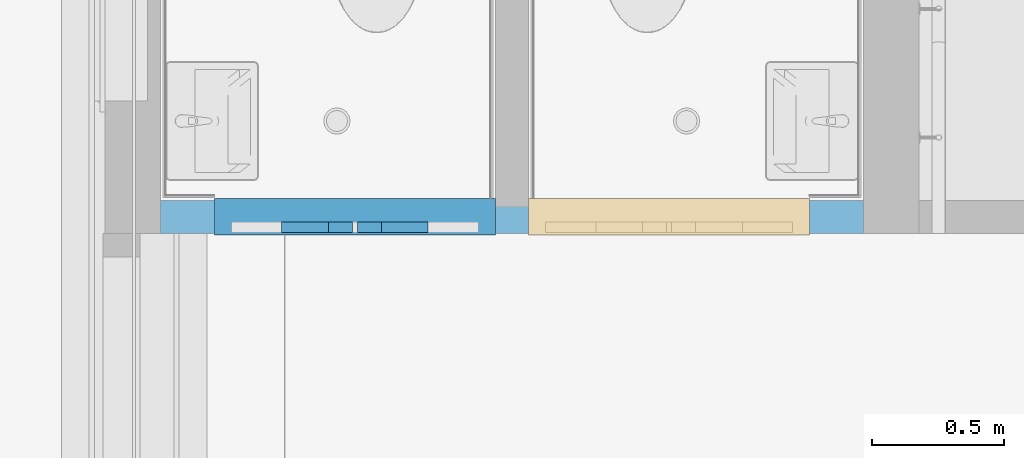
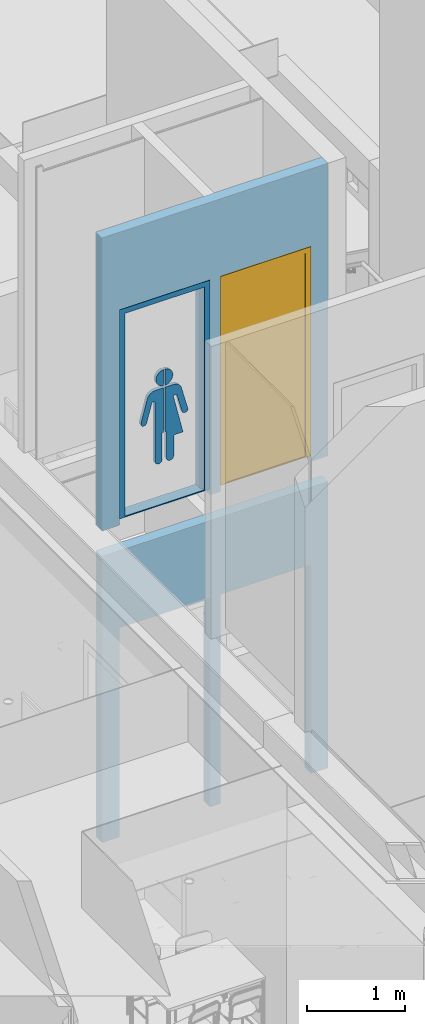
# One storey, part 58 of 347: 2 building element parts, 1 door, 4 openings, 1 element without a shape of its own, plus 1 element that does not belong to this part.
"""IFC2X3 building model written with IfcOpenShell, lengths in millimetres."""

from ifc_helpers import new_model, entity, si_unit, converted_unit, derived_unit, money_unit, direction, frame, origin_with_axes, place, context, subcontext, project, spatial, faceted_brep, material, type_object, element, fill, aggregate, save


model = new_model("IFC2X3")

# Units and contexts
model_context = context("Model", 3, precision=0.01, world=origin_with_axes(), true_north=direction((0.0, 1.0)))
plan_context = context("Plan", 3, precision=0.01, world=origin_with_axes(), true_north=direction((0.0, 1.0)))
body_context = subcontext(model_context, "Body", "Model", "MODEL_VIEW")
ifc_project = project(units=[si_unit("LENGTHUNIT", "METRE", prefix="MILLI"), si_unit("AREAUNIT", "SQUARE_METRE"), si_unit("VOLUMEUNIT", "CUBIC_METRE"), converted_unit("PLANEANGLEUNIT", "DEGREE", entity("IfcPlaneAngleMeasure", 0.0174532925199), si_unit("PLANEANGLEUNIT", "RADIAN"), dimensions=[0, 0, 0, 0, 0, 0, 0]), money_unit("EUR"), converted_unit("TIMEUNIT", "Year", entity("IfcTimeMeasure", 31556926.0), si_unit("TIMEUNIT", "SECOND"), dimensions=[0, 0, 1, 0, 0, 0, 0]), si_unit("MASSUNIT", "GRAM", prefix="KILO"), si_unit("THERMODYNAMICTEMPERATUREUNIT", "DEGREE_CELSIUS"), si_unit("LUMINOUSINTENSITYUNIT", "LUMEN"), si_unit("ENERGYUNIT", "JOULE", prefix="MEGA"), derived_unit("THERMALCONDUCTANCEUNIT", [(si_unit("POWERUNIT", "WATT"), 1), (si_unit("LENGTHUNIT", "METRE"), -1), (si_unit("THERMODYNAMICTEMPERATUREUNIT", "KELVIN"), -1)]), derived_unit("SPECIFICHEATCAPACITYUNIT", [(si_unit("ENERGYUNIT", "JOULE"), 1), (si_unit("MASSUNIT", "GRAM", prefix="KILO"), -1), (si_unit("THERMODYNAMICTEMPERATUREUNIT", "KELVIN"), -1)]), derived_unit("MASSDENSITYUNIT", [(si_unit("MASSUNIT", "GRAM", prefix="KILO"), 1), (si_unit("VOLUMEUNIT", "CUBIC_METRE"), -1)])], contexts=[model_context, plan_context])

# Site, building, storey
site_placement = place(None, origin_with_axes())
site = spatial("IfcSite", under=ifc_project, at=site_placement, Name="Site", CompositionType="ELEMENT")
building_placement = place(site_placement, origin_with_axes())
building = spatial("IfcBuilding", under=site, at=building_placement, Name="Naam gebouw", CompositionType="ELEMENT")
storey_placement = place(building_placement, origin_with_axes())
storey = spatial("IfcBuildingStorey", under=building, at=storey_placement, Name="begane grond", CompositionType="ELEMENT", Elevation=0.0)

# Wall, openings, doors, building element parts
ifc_material_1 = material(Name="ALG - LICHTE SCHEIDINGSWAND")
wall_type = type_object("IfcWallType", Name="ALG LSW 125 125", PredefinedType="NOTDEFINED")
wall_placement = place(storey_placement, frame((35705.0, 30074.9999277, 0.0), z_axis=(0.0, 0.0, 1.0), x_axis=(1.0, 0.0, 0.0)))
wall = element("IfcWall", 1, at=wall_placement, inside=storey, type_object=wall_type, material=ifc_material_1, Name="22_GF 125 ECO DGS/2.75.2A", context=body_context, shape_type="Brep", body=[
    faceted_brep([(1392.5, 125.0, 2600.0), (1392.5, 125.0, 0.0), (1267.5, 125.0, 0.0), (1267.5, 125.0, 2600.0), (203.5, 125.0, 2600.0), (203.5, 125.0, 0.0), (0.0, 125.0, 0.0), (0.0, 125.0, 3560.0), (2660.0, 125.0, 3560.0), (2660.0, 125.0, 0.0), (2456.5, 125.0, 0.0), (2456.5, 125.0, 2600.0), (1392.5, 0.0, 2600.0), (1392.5, 0.0, 0.0), (1267.5, 0.0, 0.0), (1267.5, 0.0, 2600.0), (203.5, 0.0, 2600.0), (203.5, 0.0, 0.0), (0.0, 0.0, 0.0), (0.0, 0.0, 3560.0), (2660.0, 0.0, 3560.0), (2660.0, 0.0, 0.0), (2456.5, 0.0, 0.0), (2456.5, 0.0, 2600.0)], [[[0, 1, 2, 3, 4, 5, 6, 7, 8, 9, 10, 11]], [[1, 0, 12, 13]], [[1, 13, 14, 2]], [[2, 14, 15, 3]], [[3, 15, 16, 4]], [[4, 16, 17, 5]], [[17, 18, 6, 5]], [[7, 6, 18, 19]], [[8, 7, 19, 20]], [[20, 21, 9, 8]], [[22, 10, 9, 21]], [[11, 10, 22, 23]], [[0, 11, 23, 12]], [[23, 22, 21, 20, 19, 18, 17, 16, 15, 14, 13, 12]]]),
    faceted_brep([(203.5, 125.0, 6560.0), (203.5, 125.0, 3960.0), (203.5, 125.0, 3880.0), (0.0, 125.0, 3880.0), (0.0, 125.0, 7520.0), (2660.0, 125.0, 7520.0), (2660.0, 125.0, 3880.0), (2456.5, 125.0, 3880.0), (2456.5, 125.0, 3960.0), (2456.5, 125.0, 6560.0), (1392.5, 125.0, 6560.0), (1392.5, 125.0, 3960.0), (1392.5, 125.0, 3880.0), (1267.5, 125.0, 3880.0), (1267.5, 125.0, 3960.0), (1267.5, 125.0, 6560.0), (203.5, 0.0, 6560.0), (203.5, 0.0, 3960.0), (203.5, 0.0, 3880.0), (0.0, 0.0, 3880.0), (0.0, 0.0, 7520.0), (2660.0, 0.0, 7520.0), (2660.0, 0.0, 3880.0), (2456.5, 0.0, 3880.0), (2456.5, 0.0, 3960.0), (2456.5, 0.0, 6560.0), (1392.5, 0.0, 6560.0), (1392.5, 0.0, 3960.0), (1392.5, 0.0, 3880.0), (1267.5, 0.0, 3880.0), (1267.5, 0.0, 3960.0), (1267.5, 0.0, 6560.0)], [[[0, 1, 2, 3, 4, 5, 6, 7, 8, 9, 10, 11, 12, 13, 14, 15]], [[1, 0, 16, 17]], [[1, 17, 18, 2]], [[18, 19, 3, 2]], [[19, 20, 4, 3]], [[4, 20, 21, 5]], [[6, 5, 21, 22]], [[7, 6, 22, 23]], [[8, 7, 23, 24]], [[8, 24, 25, 9]], [[9, 25, 26, 10]], [[10, 26, 27, 11]], [[27, 28, 12, 11]], [[28, 29, 13, 12]], [[30, 14, 13, 29]], [[15, 14, 30, 31]], [[0, 15, 31, 16]], [[31, 30, 29, 28, 27, 26, 25, 24, 23, 22, 21, 20, 19, 18, 17, 16]]]),
])
opening_1_placement = place(wall_placement, frame((735.5, 0.0, 0.0), z_axis=(0.0, 0.0, 1.0), x_axis=(1.0, 0.0, 0.0)))
element("IfcOpeningElement", 2, at=opening_1_placement, cuts=wall, Name="32_02.05", context=body_context, shape_type="Brep", body=[
    faceted_brep([(-532.0, 125.0, 2600.0), (-532.0, 125.0, 0.0), (-532.0, -257.0, 0.0), (-532.0, -257.0, 2600.0), (532.0, 125.0, 2600.0), (532.0, 125.0, 0.0), (532.0, -257.0, 0.0), (532.0, -257.0, 2600.0)], [[[0, 1, 2, 3]], [[0, 4, 5, 1]], [[1, 5, 6, 2]], [[3, 2, 6, 7]], [[4, 0, 3, 7]], [[5, 4, 7, 6]]]),
])
opening_2_placement = place(wall_placement, frame((1924.5, 0.0, 0.0), z_axis=(0.0, 0.0, 1.0), x_axis=(1.0, 0.0, 0.0)))
element("IfcOpeningElement", 3, at=opening_2_placement, cuts=wall, Name="32_02.05", context=body_context, shape_type="Brep", body=[
    faceted_brep([(-532.0, 125.0, 2600.0), (-532.0, 125.0, 0.0), (-532.0, -257.0, 0.0), (-532.0, -257.0, 2600.0), (532.0, 125.0, 2600.0), (532.0, 125.0, 0.0), (532.0, -257.0, 0.0), (532.0, -257.0, 2600.0)], [[[0, 1, 2, 3]], [[0, 4, 5, 1]], [[1, 5, 6, 2]], [[3, 2, 6, 7]], [[4, 0, 3, 7]], [[5, 4, 7, 6]]]),
])
opening_3_placement = place(wall_placement, frame((1924.5, 0.0, 3960.0), z_axis=(0.0, 0.0, 1.0), x_axis=(1.0, 0.0, 0.0)))
opening_3 = element("IfcOpeningElement", 4, at=opening_3_placement, cuts=wall, Name="32_02.05", context=body_context, shape_type="Brep", body=[
    faceted_brep([(-532.0, -125.0, 0.0), (-532.0, -125.0, 2600.0), (-532.0, 257.0, 2600.0), (-532.0, 257.0, 0.0), (532.0, -125.0, 0.0), (532.0, -125.0, 2600.0), (532.0, 257.0, 2600.0), (532.0, 257.0, 0.0)], [[[0, 1, 2, 3]], [[0, 4, 5, 1]], [[1, 5, 6, 2]], [[3, 2, 6, 7]], [[4, 0, 3, 7]], [[5, 4, 7, 6]]]),
])
opening_4_placement = place(wall_placement, frame((735.5, 0.0, 3960.0), z_axis=(0.0, 0.0, 1.0), x_axis=(1.0, 0.0, 0.0)))
opening_4 = element("IfcOpeningElement", 5, at=opening_4_placement, cuts=wall, Name="32_02.05", context=body_context, shape_type="Brep", body=[
    faceted_brep([(-532.0, -125.0, 0.0), (-532.0, -125.0, 2600.0), (-532.0, 257.0, 2600.0), (-532.0, 257.0, 0.0), (532.0, -125.0, 0.0), (532.0, -125.0, 2600.0), (532.0, 257.0, 2600.0), (532.0, 257.0, 0.0)], [[[0, 1, 2, 3]], [[0, 4, 5, 1]], [[1, 5, 6, 2]], [[3, 2, 6, 7]], [[4, 0, 3, 7]], [[5, 4, 7, 6]]]),
])
door_style = type_object("IfcDoorStyle", Name="D1 25", ConstructionType="NOTDEFINED", OperationType="SINGLE_SWING_RIGHT", ParameterTakesPrecedence=False, Sizeable=False)
door_1_placement = place(opening_3_placement, frame((532.0, 0.0, 0.0), z_axis=(0.0, 0.0, 1.0), x_axis=(-1.0, 0.0, 0.0)))
door_1 = element("IfcDoor", 6, at=door_1_placement, inside=storey, type_object=door_style, Name="32_02.05", ObjectType="DOOR", OverallHeight=2600.0, OverallWidth=1064.0, context=body_context, shape_type="Brep", body=[
    faceted_brep([(65.0, -33.0, 10.0), (90.0, -33.0, 10.0), (90.0, -132.0, 10.0), (974.0, -132.0, 10.0), (974.0, -33.0, 10.0), (999.0, -33.0, 10.0), (999.0, 7.0, 10.0), (65.0, 7.0, 10.0), (65.0, -33.0, 0.0), (90.0, -33.0, 0.0), (90.0, -132.0, 0.0), (974.0, -132.0, 0.0), (974.0, -33.0, 0.0), (999.0, -33.0, 0.0), (999.0, 7.0, 0.0), (65.0, 7.0, 0.0)], [[[0, 1, 2, 3, 4, 5, 6, 7]], [[1, 0, 8, 9]], [[10, 2, 1, 9]], [[2, 10, 11, 3]], [[3, 11, 12, 4]], [[5, 4, 12, 13]], [[13, 14, 6, 5]], [[15, 7, 6, 14]], [[8, 0, 7, 15]], [[9, 8, 15, 14, 13, 12, 11, 10]]]),
    faceted_brep([(90.0, -43.0, 0.0), (90.0, -43.0, 2510.0), (90.0, -132.0, 2510.0), (90.0, -132.0, 0.0), (65.0, -43.0, 2510.0), (65.0, -43.0, 0.0), (65.0, 7.0, 2510.0), (0.0, 7.0, 2510.0), (0.0, -132.0, 2510.0), (0.0, -132.0, 0.0), (0.0, 7.0, 0.0), (65.0, 7.0, 0.0)], [[[0, 1, 2, 3]], [[4, 1, 0, 5]], [[4, 6, 7, 8, 2, 1]], [[3, 2, 8, 9]], [[5, 0, 3, 9, 10, 11]], [[6, 4, 5, 11]], [[6, 11, 10, 7]], [[10, 9, 8, 7]]]),
    faceted_brep([(999.0, -43.0, 2510.0), (974.0, -43.0, 2510.0), (974.0, -132.0, 2510.0), (1064.0, -132.0, 2510.0), (1064.0, 7.0, 2510.0), (999.0, 7.0, 2510.0), (999.0, -43.0, 0.0), (974.0, -43.0, 0.0), (974.0, -132.0, 0.0), (1064.0, -132.0, 0.0), (1064.0, 7.0, 0.0), (999.0, 7.0, 0.0)], [[[0, 1, 2, 3, 4, 5]], [[1, 0, 6, 7]], [[1, 7, 8, 2]], [[3, 2, 8, 9]], [[4, 3, 9, 10]], [[11, 5, 4, 10]], [[0, 5, 11, 6]], [[6, 11, 10, 9, 8, 7]]]),
    faceted_brep([(65.0, 7.0, 2535.0), (65.0, 7.0, 2510.0), (0.0, 7.0, 2510.0), (0.0, 7.0, 2600.0), (1064.0, 7.0, 2600.0), (1064.0, 7.0, 2510.0), (999.0, 7.0, 2510.0), (999.0, 7.0, 2535.0), (65.0, -43.0, 2535.0), (65.0, -43.0, 2510.0), (90.0, -43.0, 2510.0), (90.0, -132.0, 2510.0), (0.0, -132.0, 2510.0), (0.0, -132.0, 2600.0), (1064.0, -132.0, 2600.0), (1064.0, -132.0, 2510.0), (999.0, -43.0, 2510.0), (974.0, -132.0, 2510.0), (974.0, -43.0, 2510.0), (999.0, -43.0, 2535.0)], [[[0, 1, 2, 3, 4, 5, 6, 7]], [[1, 0, 8, 9]], [[9, 10, 11, 12, 2, 1]], [[2, 12, 13, 3]], [[3, 13, 14, 4]], [[4, 14, 15, 5]], [[16, 6, 5, 15, 17, 18]], [[7, 6, 16, 19]], [[0, 7, 19, 8]], [[16, 18, 10, 9, 8, 19]], [[10, 18, 17, 11]], [[17, 15, 14, 13, 12, 11]]]),
    faceted_brep([(999.0, -3.0, 10.0), (999.0, -43.0, 10.0), (65.0, -43.0, 10.0), (65.0, -3.0, 10.0), (999.0, -3.0, 2535.0), (999.0, -43.0, 2535.0), (65.0, -43.0, 2535.0), (65.0, -3.0, 2535.0)], [[[0, 1, 2, 3]], [[4, 5, 1, 0]], [[1, 5, 6, 2]], [[3, 2, 6, 7]], [[0, 3, 7, 4]], [[7, 6, 5, 4]]]),
])
fill(opening_3, door_1)
door_2_placement = place(opening_4_placement, frame((532.0, 0.0, 0.0), z_axis=(0.0, 0.0, 1.0), x_axis=(-1.0, 0.0, 0.0)))
door_2 = element("IfcDoor", 7, at=door_2_placement, inside=storey, type_object=door_style, Name="32_02.05", ObjectType="DOOR", OverallHeight=2600.0, OverallWidth=1064.0)
fill(opening_4, door_2)
building_element_part_1_placement = place(door_2_placement, origin_with_axes())
building_element_part_1 = element("IfcBuildingElementPart", 8, at=building_element_part_1_placement, context=body_context, shape_type="Brep", body=[
    faceted_brep([(65.0, -33.0, 10.0), (90.0, -33.0, 10.0), (90.0, -132.0, 10.0), (974.0, -132.0, 10.0), (974.0, -33.0, 10.0), (999.0, -33.0, 10.0), (999.0, 7.0, 10.0), (65.0, 7.0, 10.0), (65.0, -33.0, 0.0), (90.0, -33.0, 0.0), (90.0, -132.0, 0.0), (974.0, -132.0, 0.0), (974.0, -33.0, 0.0), (999.0, -33.0, 0.0), (999.0, 7.0, 0.0), (65.0, 7.0, 0.0)], [[[0, 1, 2, 3, 4, 5, 6, 7]], [[1, 0, 8, 9]], [[10, 2, 1, 9]], [[2, 10, 11, 3]], [[3, 11, 12, 4]], [[5, 4, 12, 13]], [[13, 14, 6, 5]], [[15, 7, 6, 14]], [[8, 0, 7, 15]], [[9, 8, 15, 14, 13, 12, 11, 10]]]),
    faceted_brep([(90.0, -43.0, 0.0), (90.0, -43.0, 2510.0), (90.0, -132.0, 2510.0), (90.0, -132.0, 0.0), (65.0, -43.0, 2510.0), (65.0, -43.0, 0.0), (65.0, 7.0, 2510.0), (0.0, 7.0, 2510.0), (0.0, -132.0, 2510.0), (0.0, -132.0, 0.0), (0.0, 7.0, 0.0), (65.0, 7.0, 0.0)], [[[0, 1, 2, 3]], [[4, 1, 0, 5]], [[4, 6, 7, 8, 2, 1]], [[3, 2, 8, 9]], [[5, 0, 3, 9, 10, 11]], [[6, 4, 5, 11]], [[6, 11, 10, 7]], [[10, 9, 8, 7]]]),
    faceted_brep([(999.0, -43.0, 2510.0), (974.0, -43.0, 2510.0), (974.0, -132.0, 2510.0), (1064.0, -132.0, 2510.0), (1064.0, 7.0, 2510.0), (999.0, 7.0, 2510.0), (999.0, -43.0, 0.0), (974.0, -43.0, 0.0), (974.0, -132.0, 0.0), (1064.0, -132.0, 0.0), (1064.0, 7.0, 0.0), (999.0, 7.0, 0.0)], [[[0, 1, 2, 3, 4, 5]], [[1, 0, 6, 7]], [[1, 7, 8, 2]], [[3, 2, 8, 9]], [[4, 3, 9, 10]], [[11, 5, 4, 10]], [[0, 5, 11, 6]], [[6, 11, 10, 9, 8, 7]]]),
    faceted_brep([(65.0, 7.0, 2535.0), (65.0, 7.0, 2510.0), (0.0, 7.0, 2510.0), (0.0, 7.0, 2600.0), (1064.0, 7.0, 2600.0), (1064.0, 7.0, 2510.0), (999.0, 7.0, 2510.0), (999.0, 7.0, 2535.0), (65.0, -43.0, 2535.0), (65.0, -43.0, 2510.0), (90.0, -43.0, 2510.0), (90.0, -132.0, 2510.0), (0.0, -132.0, 2510.0), (0.0, -132.0, 2600.0), (1064.0, -132.0, 2600.0), (1064.0, -132.0, 2510.0), (999.0, -43.0, 2510.0), (974.0, -132.0, 2510.0), (974.0, -43.0, 2510.0), (999.0, -43.0, 2535.0)], [[[0, 1, 2, 3, 4, 5, 6, 7]], [[1, 0, 8, 9]], [[9, 10, 11, 12, 2, 1]], [[2, 12, 13, 3]], [[3, 13, 14, 4]], [[4, 14, 15, 5]], [[16, 6, 5, 15, 17, 18]], [[7, 6, 16, 19]], [[0, 7, 19, 8]], [[16, 18, 10, 9, 8, 19]], [[10, 18, 17, 11]], [[17, 15, 14, 13, 12, 11]]]),
])
ifc_material_2 = material(Name="Glas sticker")
building_element_part_2_placement = place(door_2_placement, origin_with_axes())
building_element_part_2 = element("IfcBuildingElementPart", 9, at=building_element_part_2_placement, material=ifc_material_2, Name="Glas sticker", context=body_context, shape_type="Brep", body=[
    faceted_brep([(733.58891637, -3.0, 1368.954906), (733.58891637, -43.0, 1368.954906), (808.62552127, -43.0, 1088.44895872), (808.62552127, -3.0, 1088.44895872), (727.949154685, -3.0, 1385.59511164), (727.949154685, -43.0, 1385.59511164), (719.162658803, -43.0, 1400.83915132), (707.866957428, -43.0, 1414.32329606), (694.405264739, -43.0, 1425.63783693), (679.186607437, -43.0, 1434.43898735), (662.673396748, -43.0, 1440.4593288), (645.367378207, -43.0, 1443.51593625), (636.580882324, -43.0, 1443.51593625), (542.043020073, -43.0, 1443.51593625), (542.043020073, -43.0, 890.229090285), (557.10752188, -43.0, 890.229090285), (557.10752188, -43.0, 563.286854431), (556.693281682, -43.0, 557.54197595), (557.521762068, -43.0, 550.06099695), (559.634551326, -43.0, 542.8377749), (562.967453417, -43.0, 536.091783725), (567.419199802, -43.0, 530.027996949), (572.854526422, -43.0, 524.830659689), (579.108283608, -43.0, 520.657690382), (585.990454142, -43.0, 517.635882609), (593.291926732, -43.0, 515.857052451), (600.790849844, -43.0, 515.375248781), (608.259372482, -43.0, 516.205110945), (615.470567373, -43.0, 518.321424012), (622.205326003, -43.0, 521.659884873), (628.25901614, -43.0, 526.119056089), (633.447699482, -43.0, 531.563447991), (637.613720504, -43.0, 537.827635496), (640.630496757, -43.0, 544.721284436), (642.406365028, -43.0, 552.034934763), (642.887366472, -43.0, 559.546364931), (642.473126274, -43.0, 563.286854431), (642.473126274, -43.0, 1292.61952191), (642.695072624, -43.0, 1294.3081838), (643.717711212, -43.0, 1297.5569887), (645.288023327, -43.0, 1300.57856146), (647.358295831, -43.0, 1303.2810931), (649.865624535, -43.0, 1305.58246859), (652.733825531, -43.0, 1307.41276178), (655.875749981, -43.0, 1308.71636013), (659.195932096, -43.0, 1309.45365449), (662.593489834, -43.0, 1309.60224253), (665.965190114, -43.0, 1309.15760948), (669.208585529, -43.0, 1308.13326528), (672.225127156, -43.0, 1306.56033414), (674.923158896, -43.0, 1304.48660874), (677.220702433, -43.0, 1301.97509819), (679.047948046, -43.0, 1299.10211348), (680.349375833, -43.0, 1295.95494878), (681.011836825, -43.0, 1292.61952191), (739.923578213, -43.0, 1073.19870026), (740.722214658, -43.0, 1070.21469297), (743.322258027, -43.0, 1064.63143877), (746.850708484, -43.0, 1059.58525256), (751.200355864, -43.0, 1055.22946015), (756.239038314, -43.0, 1051.6964101), (761.813658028, -43.0, 1049.09345233), (767.754833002, -43.0, 1047.49967641), (773.882043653, -43.0, 1046.96350842), (780.009117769, -43.0, 1047.50123953), (785.949887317, -43.0, 1049.09653107), (791.523845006, -43.0, 1051.70091091), (796.561628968, -43.0, 1055.23524628), (800.910168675, -43.0, 1059.59214821), (804.437335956, -43.0, 1064.63923441), (807.035959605, -43.0, 1070.22315174), (808.627081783, -43.0, 1076.17423568), (809.162357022, -43.0, 1082.31166558), (809.162357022, -3.0, 1082.31166558), (808.627081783, -3.0, 1076.17423568), (807.035959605, -3.0, 1070.22315174), (804.437335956, -3.0, 1064.63923441), (800.910168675, -3.0, 1059.59214821), (796.561628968, -3.0, 1055.23524628), (791.523845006, -3.0, 1051.70091091), (785.949887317, -3.0, 1049.09653107), (780.009117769, -3.0, 1047.50123953), (773.882043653, -3.0, 1046.96350842), (767.754833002, -3.0, 1047.49967641), (761.813658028, -3.0, 1049.09345233), (756.239038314, -3.0, 1051.6964101), (751.200355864, -3.0, 1055.22946015), (746.850708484, -3.0, 1059.58525256), (743.322258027, -3.0, 1064.63143877), (740.722214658, -3.0, 1070.21469297), (739.923578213, -3.0, 1073.19870026), (681.011836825, -3.0, 1292.61952191), (680.349375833, -3.0, 1295.95494878), (679.047948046, -3.0, 1299.10211348), (677.220702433, -3.0, 1301.97509819), (674.923158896, -3.0, 1304.48660874), (672.225127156, -3.0, 1306.56033414), (669.208585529, -3.0, 1308.13326528), (665.965190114, -3.0, 1309.15760948), (662.593489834, -3.0, 1309.60224253), (659.195932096, -3.0, 1309.45365449), (655.875749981, -3.0, 1308.71636013), (652.733825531, -3.0, 1307.41276178), (649.865624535, -3.0, 1305.58246859), (647.358295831, -3.0, 1303.2810931), (645.288023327, -3.0, 1300.57856146), (643.717711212, -3.0, 1297.5569887), (642.695072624, -3.0, 1294.3081838), (642.473126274, -3.0, 1292.61952191), (642.473126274, -3.0, 563.286854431), (642.887366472, -3.0, 559.546364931), (642.406365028, -3.0, 552.034934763), (640.630496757, -3.0, 544.721284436), (637.613720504, -3.0, 537.827635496), (633.447699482, -3.0, 531.563447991), (628.25901614, -3.0, 526.119056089), (622.205326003, -3.0, 521.659884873), (615.470567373, -3.0, 518.321424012), (608.259372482, -3.0, 516.205110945), (600.790849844, -3.0, 515.375248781), (593.291926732, -3.0, 515.857052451), (585.990454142, -3.0, 517.635882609), (579.108283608, -3.0, 520.657690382), (572.854526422, -3.0, 524.830659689), (567.419199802, -3.0, 530.027996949), (562.967453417, -3.0, 536.091783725), (559.634551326, -3.0, 542.8377749), (557.521762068, -3.0, 550.06099695), (556.693281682, -3.0, 557.54197595), (557.10752188, -3.0, 563.286854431), (557.10752188, -3.0, 890.229090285), (542.043020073, -3.0, 890.229090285), (542.043020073, -3.0, 1443.51593625), (636.580882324, -3.0, 1443.51593625), (645.367378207, -3.0, 1443.51593625), (662.673396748, -3.0, 1440.4593288), (679.186607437, -3.0, 1434.43898735), (694.405264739, -3.0, 1425.63783693), (707.866957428, -3.0, 1414.32329606), (719.162658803, -3.0, 1400.83915132)], [[[0, 1, 2, 3]], [[4, 5, 1, 0]], [[1, 5, 6, 7, 8, 9, 10, 11, 12, 13, 14, 15, 16, 17, 18, 19, 20, 21, 22, 23, 24, 25, 26, 27, 28, 29, 30, 31, 32, 33, 34, 35, 36, 37, 38, 39, 40, 41, 42, 43, 44, 45, 46, 47, 48, 49, 50, 51, 52, 53, 54, 55, 56, 57, 58, 59, 60, 61, 62, 63, 64, 65, 66, 67, 68, 69, 70, 71, 72, 2]], [[3, 2, 72, 73]], [[0, 3, 73, 74, 75, 76, 77, 78, 79, 80, 81, 82, 83, 84, 85, 86, 87, 88, 89, 90, 91, 92, 93, 94, 95, 96, 97, 98, 99, 100, 101, 102, 103, 104, 105, 106, 107, 108, 109, 110, 111, 112, 113, 114, 115, 116, 117, 118, 119, 120, 121, 122, 123, 124, 125, 126, 127, 128, 129, 130, 131, 132, 133, 134, 135, 136, 137, 138, 139, 4]], [[139, 6, 5, 4]], [[138, 7, 6, 139]], [[137, 8, 7, 138]], [[136, 9, 8, 137]], [[135, 10, 9, 136]], [[134, 11, 10, 135]], [[133, 12, 11, 134]], [[132, 13, 12, 133]], [[131, 14, 13, 132]], [[130, 15, 14, 131]], [[129, 16, 15, 130]], [[128, 17, 16, 129]], [[127, 18, 17, 128]], [[126, 19, 18, 127]], [[125, 20, 19, 126]], [[124, 21, 20, 125]], [[123, 22, 21, 124]], [[122, 23, 22, 123]], [[121, 24, 23, 122]], [[120, 25, 24, 121]], [[119, 26, 25, 120]], [[118, 27, 26, 119]], [[117, 28, 27, 118]], [[116, 29, 28, 117]], [[115, 30, 29, 116]], [[114, 31, 30, 115]], [[113, 32, 31, 114]], [[112, 33, 32, 113]], [[111, 34, 33, 112]], [[110, 35, 34, 111]], [[109, 36, 35, 110]], [[108, 37, 36, 109]], [[107, 38, 37, 108]], [[106, 39, 38, 107]], [[105, 40, 39, 106]], [[104, 41, 40, 105]], [[103, 42, 41, 104]], [[102, 43, 42, 103]], [[101, 44, 43, 102]], [[100, 45, 44, 101]], [[99, 46, 45, 100]], [[98, 47, 46, 99]], [[97, 48, 47, 98]], [[96, 49, 48, 97]], [[95, 50, 49, 96]], [[94, 51, 50, 95]], [[93, 52, 51, 94]], [[92, 53, 52, 93]], [[91, 54, 53, 92]], [[90, 55, 54, 91]], [[89, 56, 55, 90]], [[88, 57, 56, 89]], [[87, 58, 57, 88]], [[86, 59, 58, 87]], [[85, 60, 59, 86]], [[84, 61, 60, 85]], [[83, 62, 61, 84]], [[82, 63, 62, 83]], [[81, 64, 63, 82]], [[80, 65, 64, 81]], [[79, 66, 65, 80]], [[78, 67, 66, 79]], [[77, 68, 67, 78]], [[76, 69, 68, 77]], [[75, 70, 69, 76]], [[74, 71, 70, 75]], [[73, 72, 71, 74]]]),
    faceted_brep([(521.956979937, -3.0, 890.229090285), (521.956979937, -43.0, 890.229090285), (506.89247812, -43.0, 890.229090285), (506.89247812, -3.0, 890.229090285), (521.956979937, -3.0, 1443.51593625), (521.956979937, -43.0, 1443.51593625), (427.419117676, -43.0, 1443.51593625), (409.912998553, -43.0, 1442.36606156), (392.938791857, -43.0, 1437.81025123), (377.01225242, -43.0, 1430.37119778), (362.617300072, -43.0, 1420.27493311), (350.191318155, -43.0, 1407.82822709), (340.111863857, -43.0, 1393.40926659), (332.68519628, -43.0, 1377.45616444), (330.41108363, -43.0, 1368.954906), (256.168479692, -43.0, 1091.41563724), (255.37291883, -43.0, 1088.44009521), (254.837644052, -43.0, 1082.30266527), (255.374480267, -43.0, 1076.16537218), (256.967115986, -43.0, 1070.21469446), (259.567159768, -43.0, 1064.63144045), (263.095610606, -43.0, 1059.58525451), (267.445258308, -43.0, 1055.22946244), (272.483941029, -43.0, 1051.69641276), (278.058560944, -43.0, 1049.09345542), (283.999736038, -43.0, 1047.49967995), (290.126946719, -43.0, 1046.96351241), (296.254020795, -43.0, 1047.50124399), (302.194790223, -43.0, 1049.09653598), (307.768747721, -43.0, 1051.70091623), (312.806531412, -43.0, 1055.235252), (317.155070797, -43.0, 1059.59215425), (320.682237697, -43.0, 1064.63924071), (323.280860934, -43.0, 1070.22315824), (324.076421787, -43.0, 1073.19870027), (382.772157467, -43.0, 1292.61952191), (382.996445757, -43.0, 1294.42542469), (384.064346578, -43.0, 1297.90433437), (385.719124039, -43.0, 1301.14464328), (387.910498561, -43.0, 1304.04789628), (390.571886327, -43.0, 1306.52587948), (393.622422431, -43.0, 1308.50330061), (396.969417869, -43.0, 1309.92007677), (400.511175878, -43.0, 1310.73315989), (404.140081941, -43.0, 1310.91784487), (407.745873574, -43.0, 1310.46852015), (411.218990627, -43.0, 1309.39883823), (414.453904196, -43.0, 1307.74130085), (417.352323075, -43.0, 1305.54627145), (419.826180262, -43.0, 1302.8804449), (421.800308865, -43.0, 1299.82482097), (423.214725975, -43.0, 1296.47224326), (423.986544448, -43.0, 1292.61952191), (312.133961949, -43.0, 814.780876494), (421.526873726, -43.0, 814.780876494), (421.526873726, -43.0, 563.286854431), (421.112633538, -43.0, 557.54197595), (421.941113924, -43.0, 550.06099695), (424.053903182, -43.0, 542.8377749), (427.386805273, -43.0, 536.091783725), (431.838551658, -43.0, 530.027996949), (437.273878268, -43.0, 524.830659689), (443.527635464, -43.0, 520.657690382), (450.409805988, -43.0, 517.635882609), (457.711278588, -43.0, 515.857052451), (465.21020169, -43.0, 515.375248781), (472.678724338, -43.0, 516.205110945), (479.889919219, -43.0, 518.321424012), (486.624677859, -43.0, 521.659884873), (492.678367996, -43.0, 526.119056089), (497.867051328, -43.0, 531.563447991), (502.03307235, -43.0, 537.827635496), (505.049848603, -43.0, 544.721284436), (506.825716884, -43.0, 552.034934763), (507.306718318, -43.0, 559.546364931), (506.89247812, -43.0, 563.286854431), (506.89247812, -3.0, 563.286854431), (507.306718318, -3.0, 559.546364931), (506.825716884, -3.0, 552.034934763), (505.049848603, -3.0, 544.721284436), (502.03307235, -3.0, 537.827635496), (497.867051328, -3.0, 531.563447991), (492.678367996, -3.0, 526.119056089), (486.624677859, -3.0, 521.659884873), (479.889919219, -3.0, 518.321424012), (472.678724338, -3.0, 516.205110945), (465.21020169, -3.0, 515.375248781), (457.711278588, -3.0, 515.857052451), (450.409805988, -3.0, 517.635882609), (443.527635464, -3.0, 520.657690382), (437.273878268, -3.0, 524.830659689), (431.838551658, -3.0, 530.027996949), (427.386805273, -3.0, 536.091783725), (424.053903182, -3.0, 542.8377749), (421.941113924, -3.0, 550.06099695), (421.112633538, -3.0, 557.54197595), (421.526873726, -3.0, 563.286854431), (421.526873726, -3.0, 814.780876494), (312.133961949, -3.0, 814.780876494), (423.986544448, -3.0, 1292.61952191), (423.214725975, -3.0, 1296.47224326), (421.800308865, -3.0, 1299.82482097), (419.826180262, -3.0, 1302.8804449), (417.352323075, -3.0, 1305.54627145), (414.453904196, -3.0, 1307.74130085), (411.218990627, -3.0, 1309.39883823), (407.745873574, -3.0, 1310.46852015), (404.140081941, -3.0, 1310.91784487), (400.511175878, -3.0, 1310.73315989), (396.969417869, -3.0, 1309.92007677), (393.622422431, -3.0, 1308.50330061), (390.571886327, -3.0, 1306.52587948), (387.910498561, -3.0, 1304.04789628), (385.719124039, -3.0, 1301.14464328), (384.064346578, -3.0, 1297.90433437), (382.996445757, -3.0, 1294.42542469), (382.772157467, -3.0, 1292.61952191), (324.076421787, -3.0, 1073.19870027), (323.280860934, -3.0, 1070.22315824), (320.682237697, -3.0, 1064.63924071), (317.155070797, -3.0, 1059.59215425), (312.806531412, -3.0, 1055.235252), (307.768747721, -3.0, 1051.70091623), (302.194790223, -3.0, 1049.09653598), (296.254020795, -3.0, 1047.50124399), (290.126946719, -3.0, 1046.96351241), (283.999736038, -3.0, 1047.49967995), (278.058560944, -3.0, 1049.09345542), (272.483941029, -3.0, 1051.69641276), (267.445258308, -3.0, 1055.22946244), (263.095610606, -3.0, 1059.58525451), (259.567159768, -3.0, 1064.63144045), (256.967115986, -3.0, 1070.21469446), (255.374480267, -3.0, 1076.16537218), (254.837644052, -3.0, 1082.30266527), (255.37291883, -3.0, 1088.44009521), (256.168479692, -3.0, 1091.41563724), (330.41108363, -3.0, 1368.954906), (332.68519628, -3.0, 1377.45616444), (340.111863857, -3.0, 1393.40926659), (350.191318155, -3.0, 1407.82822709), (362.617300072, -3.0, 1420.27493311), (377.01225242, -3.0, 1430.37119778), (392.938791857, -3.0, 1437.81025123), (409.912998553, -3.0, 1442.36606156), (427.419117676, -3.0, 1443.51593625)], [[[0, 1, 2, 3]], [[4, 5, 1, 0]], [[1, 5, 6, 7, 8, 9, 10, 11, 12, 13, 14, 15, 16, 17, 18, 19, 20, 21, 22, 23, 24, 25, 26, 27, 28, 29, 30, 31, 32, 33, 34, 35, 36, 37, 38, 39, 40, 41, 42, 43, 44, 45, 46, 47, 48, 49, 50, 51, 52, 53, 54, 55, 56, 57, 58, 59, 60, 61, 62, 63, 64, 65, 66, 67, 68, 69, 70, 71, 72, 73, 74, 75, 2]], [[3, 2, 75, 76]], [[0, 3, 76, 77, 78, 79, 80, 81, 82, 83, 84, 85, 86, 87, 88, 89, 90, 91, 92, 93, 94, 95, 96, 97, 98, 99, 100, 101, 102, 103, 104, 105, 106, 107, 108, 109, 110, 111, 112, 113, 114, 115, 116, 117, 118, 119, 120, 121, 122, 123, 124, 125, 126, 127, 128, 129, 130, 131, 132, 133, 134, 135, 136, 137, 138, 139, 140, 141, 142, 143, 144, 145, 4]], [[145, 6, 5, 4]], [[144, 7, 6, 145]], [[143, 8, 7, 144]], [[142, 9, 8, 143]], [[141, 10, 9, 142]], [[140, 11, 10, 141]], [[139, 12, 11, 140]], [[138, 13, 12, 139]], [[137, 14, 13, 138]], [[136, 15, 14, 137]], [[135, 16, 15, 136]], [[134, 17, 16, 135]], [[133, 18, 17, 134]], [[132, 19, 18, 133]], [[131, 20, 19, 132]], [[130, 21, 20, 131]], [[129, 22, 21, 130]], [[128, 23, 22, 129]], [[127, 24, 23, 128]], [[126, 25, 24, 127]], [[125, 26, 25, 126]], [[124, 27, 26, 125]], [[123, 28, 27, 124]], [[122, 29, 28, 123]], [[121, 30, 29, 122]], [[120, 31, 30, 121]], [[119, 32, 31, 120]], [[118, 33, 32, 119]], [[117, 34, 33, 118]], [[116, 35, 34, 117]], [[115, 36, 35, 116]], [[114, 37, 36, 115]], [[113, 38, 37, 114]], [[112, 39, 38, 113]], [[111, 40, 39, 112]], [[110, 41, 40, 111]], [[109, 42, 41, 110]], [[108, 43, 42, 109]], [[107, 44, 43, 108]], [[106, 45, 44, 107]], [[105, 46, 45, 106]], [[104, 47, 46, 105]], [[103, 48, 47, 104]], [[102, 49, 48, 103]], [[101, 50, 49, 102]], [[100, 51, 50, 101]], [[99, 52, 51, 100]], [[98, 53, 52, 99]], [[97, 54, 53, 98]], [[96, 55, 54, 97]], [[95, 56, 55, 96]], [[94, 57, 56, 95]], [[93, 58, 57, 94]], [[92, 59, 58, 93]], [[91, 60, 59, 92]], [[90, 61, 60, 91]], [[89, 62, 61, 90]], [[88, 63, 62, 89]], [[87, 64, 63, 88]], [[86, 65, 64, 87]], [[85, 66, 65, 86]], [[84, 67, 66, 85]], [[83, 68, 67, 84]], [[82, 69, 68, 83]], [[81, 70, 69, 82]], [[80, 71, 70, 81]], [[79, 72, 71, 80]], [[78, 73, 72, 79]], [[77, 74, 73, 78]], [[76, 75, 74, 77]]]),
    faceted_brep([(521.956979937, -3.0, 1669.35630499), (521.956979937, -43.0, 1669.35630499), (521.956979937, -43.0, 1469.16959144), (521.956979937, -3.0, 1469.16959144), (505.907485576, -3.0, 1666.80395031), (505.907485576, -43.0, 1666.80395031), (489.394274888, -43.0, 1660.78360886), (474.175617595, -43.0, 1651.98245845), (460.713924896, -43.0, 1640.66791757), (449.418223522, -43.0, 1627.18377283), (440.631727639, -43.0, 1611.93973315), (434.621410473, -43.0, 1595.39898096), (431.569892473, -43.0, 1578.06409863), (431.569892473, -43.0, 1569.26294821), (432.500273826, -43.0, 1553.01203348), (436.829141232, -43.0, 1535.9521583), (444.049727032, -43.0, 1519.90441461), (453.942637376, -43.0, 1505.35640498), (466.207281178, -43.0, 1492.75016333), (480.471003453, -43.0, 1482.46872393), (496.300408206, -43.0, 1474.82448312), (513.214526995, -43.0, 1470.04970729), (513.214526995, -3.0, 1470.04970729), (496.300408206, -3.0, 1474.82448312), (480.471003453, -3.0, 1482.46872393), (466.207281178, -3.0, 1492.75016333), (453.942637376, -3.0, 1505.35640498), (444.049727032, -3.0, 1519.90441461), (436.829141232, -3.0, 1535.9521583), (432.500273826, -3.0, 1553.01203348), (431.569892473, -3.0, 1569.26294821), (431.569892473, -3.0, 1578.06409863), (434.621410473, -3.0, 1595.39898096), (440.631727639, -3.0, 1611.93973315), (449.418223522, -3.0, 1627.18377283), (460.713924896, -3.0, 1640.66791757), (474.175617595, -3.0, 1651.98245845), (489.394274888, -3.0, 1660.78360886)], [[[0, 1, 2, 3]], [[4, 5, 1, 0]], [[1, 5, 6, 7, 8, 9, 10, 11, 12, 13, 14, 15, 16, 17, 18, 19, 20, 21, 2]], [[3, 2, 21, 22]], [[0, 3, 22, 23, 24, 25, 26, 27, 28, 29, 30, 31, 32, 33, 34, 35, 36, 37, 4]], [[37, 6, 5, 4]], [[36, 7, 6, 37]], [[35, 8, 7, 36]], [[34, 9, 8, 35]], [[33, 10, 9, 34]], [[32, 11, 10, 33]], [[31, 12, 11, 32]], [[30, 13, 12, 31]], [[29, 14, 13, 30]], [[28, 15, 14, 29]], [[27, 16, 15, 28]], [[26, 17, 16, 27]], [[25, 18, 17, 26]], [[24, 19, 18, 25]], [[23, 20, 19, 24]], [[22, 21, 20, 23]]]),
    faceted_brep([(542.043020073, -3.0, 1669.35630499), (542.043020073, -43.0, 1669.35630499), (550.785473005, -43.0, 1668.47618914), (550.785473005, -3.0, 1668.47618914), (542.043020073, -3.0, 1469.16959144), (542.043020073, -43.0, 1469.16959144), (558.092514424, -43.0, 1471.72194611), (574.605725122, -43.0, 1477.74228756), (589.824382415, -43.0, 1486.54343798), (603.286075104, -43.0, 1497.85797885), (614.581776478, -43.0, 1511.34212359), (623.368272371, -43.0, 1526.58616327), (629.378589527, -43.0, 1543.12691547), (632.430107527, -43.0, 1560.4617978), (632.430107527, -43.0, 1569.26294821), (631.499726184, -43.0, 1585.51386294), (627.170858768, -43.0, 1602.57373813), (619.950272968, -43.0, 1618.62148182), (610.057362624, -43.0, 1633.16949145), (597.792718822, -43.0, 1645.77573309), (583.528996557, -43.0, 1656.05717249), (567.699591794, -43.0, 1663.7014133), (567.699591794, -3.0, 1663.7014133), (583.528996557, -3.0, 1656.05717249), (597.792718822, -3.0, 1645.77573309), (610.057362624, -3.0, 1633.16949145), (619.950272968, -3.0, 1618.62148182), (627.170858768, -3.0, 1602.57373813), (631.499726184, -3.0, 1585.51386294), (632.430107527, -3.0, 1569.26294821), (632.430107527, -3.0, 1560.4617978), (629.378589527, -3.0, 1543.12691547), (623.368272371, -3.0, 1526.58616327), (614.581776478, -3.0, 1511.34212359), (603.286075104, -3.0, 1497.85797885), (589.824382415, -3.0, 1486.54343798), (574.605725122, -3.0, 1477.74228756), (558.092514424, -3.0, 1471.72194611)], [[[0, 1, 2, 3]], [[4, 5, 1, 0]], [[1, 5, 6, 7, 8, 9, 10, 11, 12, 13, 14, 15, 16, 17, 18, 19, 20, 21, 2]], [[3, 2, 21, 22]], [[0, 3, 22, 23, 24, 25, 26, 27, 28, 29, 30, 31, 32, 33, 34, 35, 36, 37, 4]], [[37, 6, 5, 4]], [[36, 7, 6, 37]], [[35, 8, 7, 36]], [[34, 9, 8, 35]], [[33, 10, 9, 34]], [[32, 11, 10, 33]], [[31, 12, 11, 32]], [[30, 13, 12, 31]], [[29, 14, 13, 30]], [[28, 15, 14, 29]], [[27, 16, 15, 28]], [[26, 17, 16, 27]], [[25, 18, 17, 26]], [[24, 19, 18, 25]], [[23, 20, 19, 24]], [[22, 21, 20, 23]]]),
])
aggregate(door_2, [building_element_part_1, building_element_part_2])

save(model, "model.ifc")
